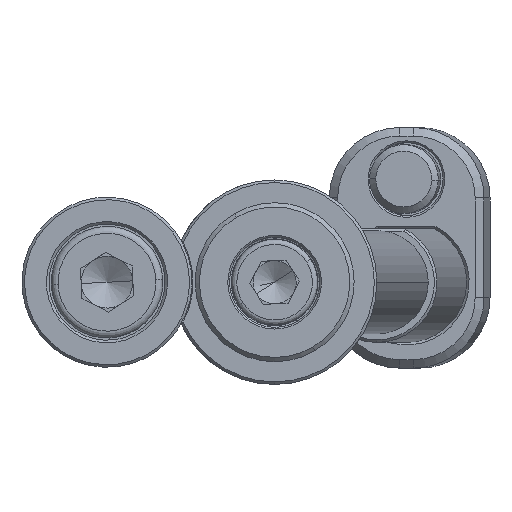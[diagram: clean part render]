
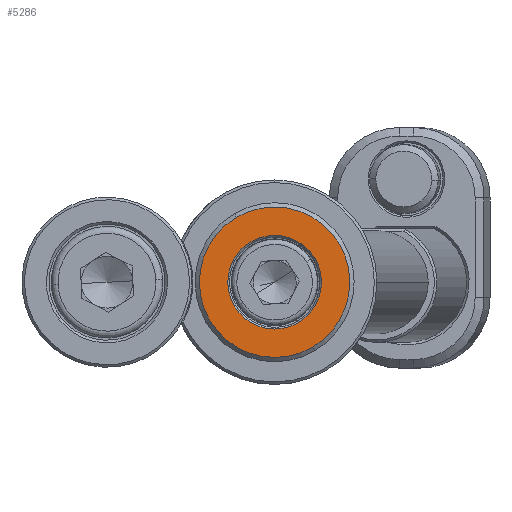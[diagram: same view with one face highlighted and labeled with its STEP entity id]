
A CAD part, front view. The second image highlights one B-rep face of the part: STEP entity #5286.
In plain terms, the highlighted planar face has unit normal (0, -1, 0).
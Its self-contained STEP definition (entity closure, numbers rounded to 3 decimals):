
#103 = FACE_OUTER_BOUND ( 'NONE', #10778, .T. ) ;
#122 = AXIS2_PLACEMENT_3D ( 'NONE', #1019, #4355, #5503 ) ;
#622 = EDGE_CURVE ( 'NONE', #2513, #13517, #12233, .T. ) ;
#1019 = CARTESIAN_POINT ( 'NONE',  ( 0., -4., 0. ) ) ;
#1295 = CARTESIAN_POINT ( 'NONE',  ( 0., -4., 0. ) ) ;
#1982 = AXIS2_PLACEMENT_3D ( 'NONE', #11169, #3288, #13284 ) ;
#2016 = CARTESIAN_POINT ( 'NONE',  ( 0., -4., 0. ) ) ;
#2105 = DIRECTION ( 'NONE',  ( 0., 1., 0. ) ) ;
#2110 = ORIENTED_EDGE ( 'NONE', *, *, #9586, .T. ) ;
#2122 = EDGE_CURVE ( 'NONE', #13517, #2513, #9206, .T. ) ;
#2160 = CIRCLE ( 'NONE', #11921, 8.75 ) ;
#2513 = VERTEX_POINT ( 'NONE', #6500 ) ;
#3288 = DIRECTION ( 'NONE',  ( 0., 1., 0. ) ) ;
#3350 = ORIENTED_EDGE ( 'NONE', *, *, #2122, .T. ) ;
#3858 = CARTESIAN_POINT ( 'NONE',  ( 2.753, -4., -4.704 ) ) ;
#4355 = DIRECTION ( 'NONE',  ( 0., -1., 0. ) ) ;
#4694 = CARTESIAN_POINT ( 'NONE',  ( 4.42, -4., -7.552 ) ) ;
#5042 = EDGE_CURVE ( 'NONE', #10969, #12125, #2160, .T. ) ;
#5286 = ADVANCED_FACE ( 'NONE', ( #7657, #103 ), #5364, .F. ) ;
#5364 = PLANE ( 'NONE',  #1982 ) ;
#5503 = DIRECTION ( 'NONE',  ( -0.505, 0., 0.863 ) ) ;
#5553 = DIRECTION ( 'NONE',  ( -0.505, 0., 0.863 ) ) ;
#5700 = DIRECTION ( 'NONE',  ( 0., -1., 0. ) ) ;
#5897 = AXIS2_PLACEMENT_3D ( 'NONE', #8632, #2105, #5553 ) ;
#6149 = EDGE_LOOP ( 'NONE', ( #3350, #13603 ) ) ;
#6500 = CARTESIAN_POINT ( 'NONE',  ( -2.753, -4., 4.704 ) ) ;
#7657 = FACE_BOUND ( 'NONE', #6149, .T. ) ;
#8632 = CARTESIAN_POINT ( 'NONE',  ( 0., -4., 0. ) ) ;
#9206 = CIRCLE ( 'NONE', #9929, 5.45 ) ;
#9586 = EDGE_CURVE ( 'NONE', #12125, #10969, #11499, .T. ) ;
#9929 = AXIS2_PLACEMENT_3D ( 'NONE', #2016, #13071, #10803 ) ;
#10778 = EDGE_LOOP ( 'NONE', ( #12138, #2110 ) ) ;
#10803 = DIRECTION ( 'NONE',  ( -0.505, 0., 0.863 ) ) ;
#10969 = VERTEX_POINT ( 'NONE', #12161 ) ;
#11169 = CARTESIAN_POINT ( 'NONE',  ( -4.531, -4., -2.652 ) ) ;
#11188 = DIRECTION ( 'NONE',  ( -0.505, 0., 0.863 ) ) ;
#11499 = CIRCLE ( 'NONE', #122, 8.75 ) ;
#11921 = AXIS2_PLACEMENT_3D ( 'NONE', #1295, #5700, #11188 ) ;
#12125 = VERTEX_POINT ( 'NONE', #4694 ) ;
#12138 = ORIENTED_EDGE ( 'NONE', *, *, #5042, .T. ) ;
#12161 = CARTESIAN_POINT ( 'NONE',  ( -4.42, -4., 7.552 ) ) ;
#12233 = CIRCLE ( 'NONE', #5897, 5.45 ) ;
#13071 = DIRECTION ( 'NONE',  ( 0., 1., 0. ) ) ;
#13284 = DIRECTION ( 'NONE',  ( -0.505, 0., 0.863 ) ) ;
#13517 = VERTEX_POINT ( 'NONE', #3858 ) ;
#13603 = ORIENTED_EDGE ( 'NONE', *, *, #622, .T. ) ;
